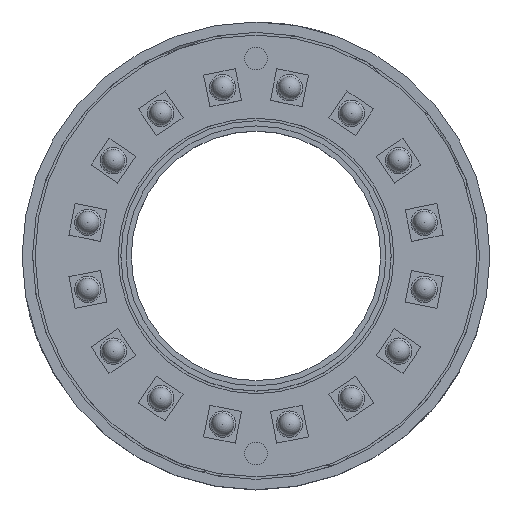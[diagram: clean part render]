
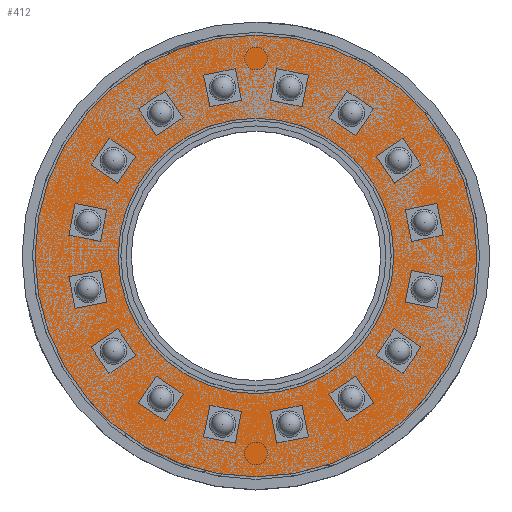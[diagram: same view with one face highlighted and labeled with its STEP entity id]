
A CAD part, top view. The second image highlights one B-rep face of the part: STEP entity #412.
In plain terms, the highlighted planar face has unit normal (0, 0, 1).
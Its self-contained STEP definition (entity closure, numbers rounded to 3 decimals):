
#412 = ADVANCED_FACE( '', ( #1030, #1031 ), #1032, .T. );
#1030 = FACE_BOUND( '', #1941, .T. );
#1031 = FACE_OUTER_BOUND( '', #1942, .T. );
#1032 = PLANE( '', #1943 );
#1941 = EDGE_LOOP( '', ( #3138 ) );
#1942 = EDGE_LOOP( '', ( #3139 ) );
#1943 = AXIS2_PLACEMENT_3D( '', #3140, #3141, #3142 );
#3138 = ORIENTED_EDGE( '', *, *, #4914, .F. );
#3139 = ORIENTED_EDGE( '', *, *, #4915, .T. );
#3140 = CARTESIAN_POINT( '', ( 0., 0., 2.6 ) );
#3141 = DIRECTION( '', ( 0., 0., 1. ) );
#3142 = DIRECTION( '', ( 1., 0., 0. ) );
#4914 = EDGE_CURVE( '', #5841, #5841, #5842, .T. );
#4915 = EDGE_CURVE( '', #5843, #5843, #5844, .T. );
#5841 = VERTEX_POINT( '', #7349 );
#5842 = CIRCLE( '', #7350, 13.25 );
#5843 = VERTEX_POINT( '', #7351 );
#5844 = CIRCLE( '', #7352, 21.25 );
#7349 = CARTESIAN_POINT( '', ( 0., 13.25, 2.6 ) );
#7350 = AXIS2_PLACEMENT_3D( '', #8695, #8696, #8697 );
#7351 = CARTESIAN_POINT( '', ( 0., 21.25, 2.6 ) );
#7352 = AXIS2_PLACEMENT_3D( '', #8698, #8699, #8700 );
#8695 = CARTESIAN_POINT( '', ( 0., 0., 2.6 ) );
#8696 = DIRECTION( '', ( 0., 0., 1. ) );
#8697 = DIRECTION( '', ( 0., 1., 0. ) );
#8698 = CARTESIAN_POINT( '', ( 0., 0., 2.6 ) );
#8699 = DIRECTION( '', ( 0., 0., 1. ) );
#8700 = DIRECTION( '', ( 0., 1., 0. ) );
